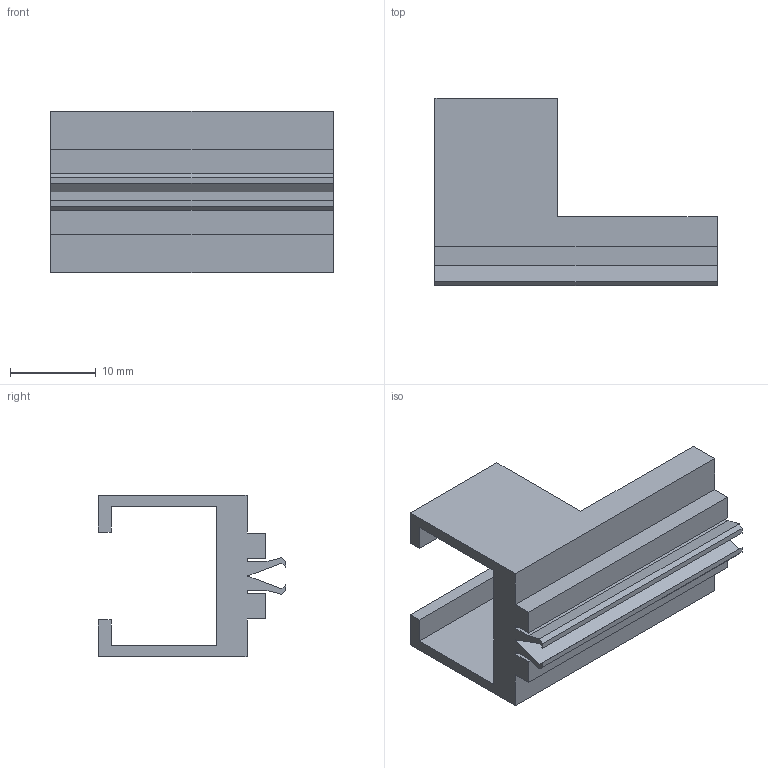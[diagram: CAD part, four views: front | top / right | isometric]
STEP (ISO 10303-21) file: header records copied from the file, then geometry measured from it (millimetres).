
FILE_DESCRIPTION(/* description */ (''),/* implementation_level */ '2;1');
FILE_NAME(/* name */ 'C:/Users/priba/Downloads/ElectromagnetHolder2.step',/* time_stamp */ '2020-09-13T09:17:26+02:00',/* author */ (''),/* organization */ (''),/* preprocessor_version */ 'ST-DEVELOPER v18.1',/* originating_system */ 'Autodesk Translation Framework v9.3.0.1241',/* authorisation */ '');
FILE_SCHEMA (('AUTOMOTIVE_DESIGN { 1 0 10303 214 3 1 1 }'));
Length unit declared in the file: millimetre
Products named in the file (3): ElectromagnetHolder2; Drawer; ElectromagnetHolder2_1
Assembly tree (2 placements, depth 2):
  ElectromagnetHolder2
    Drawer
    ElectromagnetHolder2_1
Bounding box: 32.8 x 21.81 x 18.8 mm (x, y, z)
Volume: 2052.2 mm3; surface area: 3778.9 mm2
Topology: 1 solids, 1 shells, 48 faces, 138 edges, 92 vertices
Faces by surface type: plane 47, cylinder 1
Entity records: 1617 total; most frequent: CARTESIAN_POINT 283, ORIENTED_EDGE 276, DIRECTION 246, EDGE_CURVE 138, LINE 136, VECTOR 136, VERTEX_POINT 92, AXIS2_PLACEMENT_3D 55
